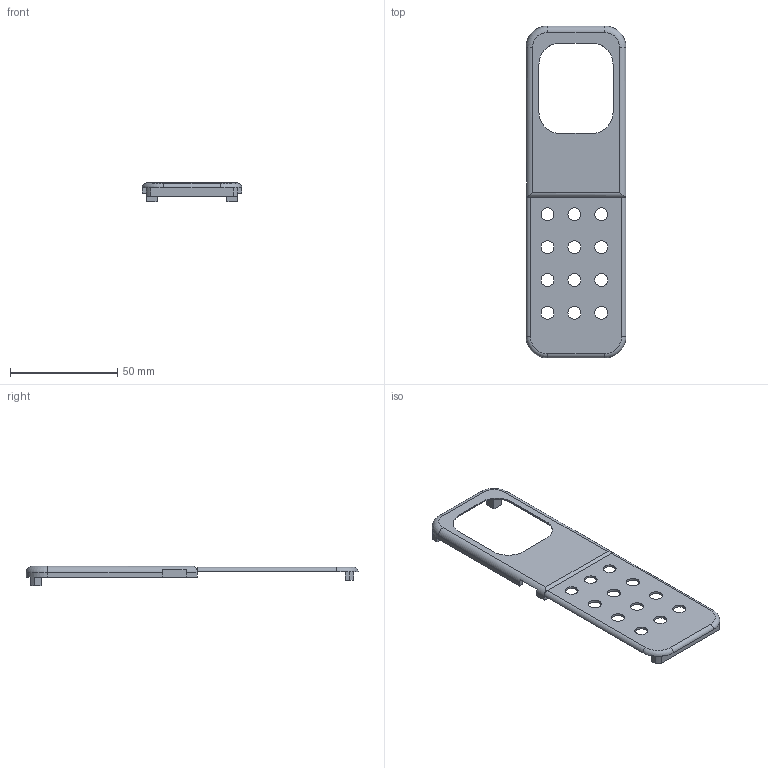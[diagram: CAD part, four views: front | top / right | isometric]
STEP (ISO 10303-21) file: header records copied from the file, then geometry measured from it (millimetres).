
FILE_DESCRIPTION(/* description */ (''),/* implementation_level */ '2;1');
FILE_NAME(/* name */ 'top.step',/* time_stamp */ '2026-10-11T13:25:08+02:00',/* author */ (''),/* organization */ (''),/* preprocessor_version */ 'ST-DEVELOPER v20.2',/* originating_system */ 'Autodesk Translation Framework v15.15.0.0',/* authorisation */ '');
FILE_SCHEMA (('AUTOMOTIVE_DESIGN { 1 0 10303 214 3 1 1 }'));
Length unit declared in the file: millimetre
Products named in the file (1): 2026-08-16-12-09-25-921
Bounding box: 46.5 x 154.5 x 9 mm (x, y, z)
Volume: 8932.2 mm3; surface area: 13936.8 mm2
Topology: 2 solids, 2 shells, 84 faces, 223 edges, 144 vertices
Faces by surface type: plane 49, cylinder 31, torus 4
Full cylindrical faces by diameter (mm): 6 x12
Entity records: 2707 total; most frequent: CARTESIAN_POINT 470, DIRECTION 465, ORIENTED_EDGE 446, EDGE_CURVE 223, AXIS2_PLACEMENT_3D 159, LINE 147, VECTOR 147, VERTEX_POINT 144
